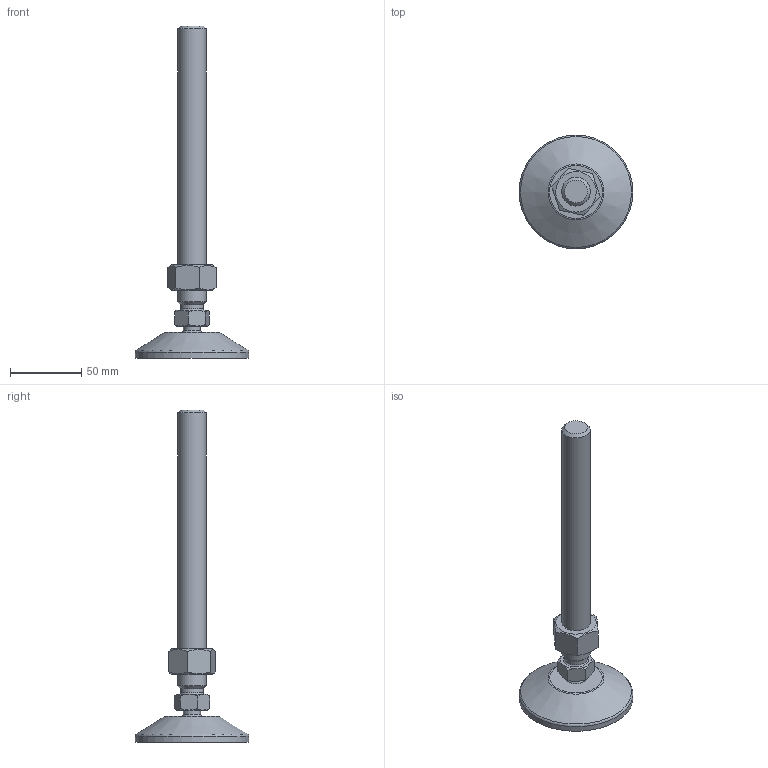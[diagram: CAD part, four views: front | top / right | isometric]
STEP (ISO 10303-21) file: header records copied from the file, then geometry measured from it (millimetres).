
FILE_DESCRIPTION(('STEP AP203'), '1');
FILE_NAME('栖闉罻', '', ('UNSPECIFIED'), ('UNSPECIFIED'), 'C3D Converter', 'C3D Toolkit', '');
FILE_SCHEMA(('CONFIG_CONTROL_DESIGN'));
Length unit declared in the file: millimetre
Products named in the file (4): A00020.120200; A00015.1080
Assembly tree (3 placements, depth 3):
  (unnamed)
    A00020.120200
      (unnamed)
    A00015.1080
Bounding box: 80 x 80 x 233.5 mm (x, y, z)
Volume: 113962.1 mm3; surface area: 35003.3 mm2
Topology: 3 solids, 3 shells, 190 faces, 480 edges, 317 vertices
Faces by surface type: plane 95, cylinder 58, cone 21, torus 14, sphere 2
Full cylindrical faces by diameter (mm): 4 x8, 12 x1, 14.3 x1, 15 x2, 15.5 x1, 16 x1, 17.294 x1, 20 x1, 69.3 x1, 80 x1
Entity records: 9514 total; most frequent: CARTESIAN_POINT 3336, DIRECTION 944, ORIENTED_EDGE 884, EDGE_CURVE 442, AXIS2_PLACEMENT_3D 378, VERTEX_POINT 315, EDGE_LOOP 247, FACE_BOUND 207
